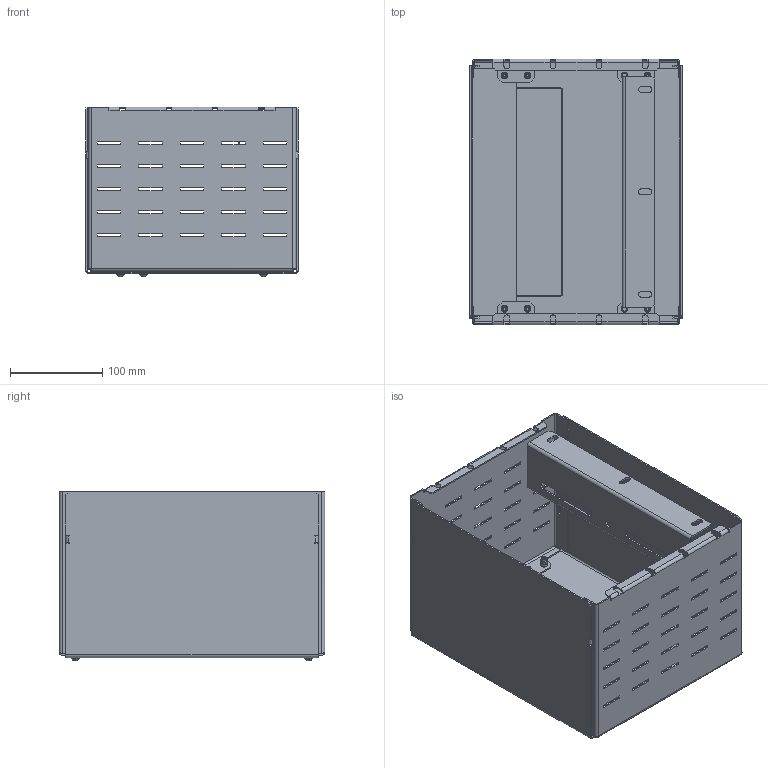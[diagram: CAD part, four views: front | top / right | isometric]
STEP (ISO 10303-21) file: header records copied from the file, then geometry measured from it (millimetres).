
FILE_DESCRIPTION(('STEP AP203'), '1');
FILE_NAME('Êîðîáêà êîììóòàöèîííàÿ çàäíÿÿ 300õ250 ìì OptiBox M 419152 ÊÝÀÇ', '', ('UNSPECIFIED'), ('UNSPECIFIED'), 'C3D Converter', 'C3D Toolkit', '');
FILE_SCHEMA(('CONFIG_CONTROL_DESIGN'));
Length unit declared in the file: millimetre
Bounding box: 230 x 288 x 183.96 mm (x, y, z)
Volume: 433931.8 mm3; surface area: 580339.3 mm2
Topology: 19 solids, 19 shells, 735 faces, 1925 edges, 1226 vertices
Faces by surface type: plane 574, cylinder 125, cone 22, bspline 8, torus 6
Full cylindrical faces by diameter (mm): 5 x14, 6 x14, 7 x8, 7.3 x8, 8.5 x6, 9 x1, 10 x8
Entity records: 34262 total; most frequent: CARTESIAN_POINT 10092, ORIENTED_EDGE 3676, DIRECTION 3480, EDGE_CURVE 1838, LINE 1532, VECTOR 1532, VERTEX_POINT 1226, EDGE_LOOP 1016
